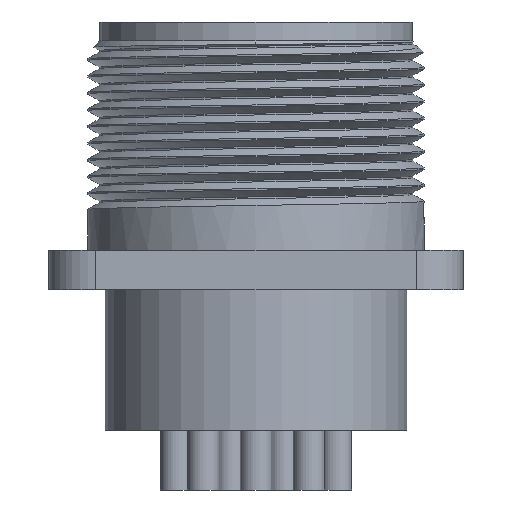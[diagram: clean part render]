
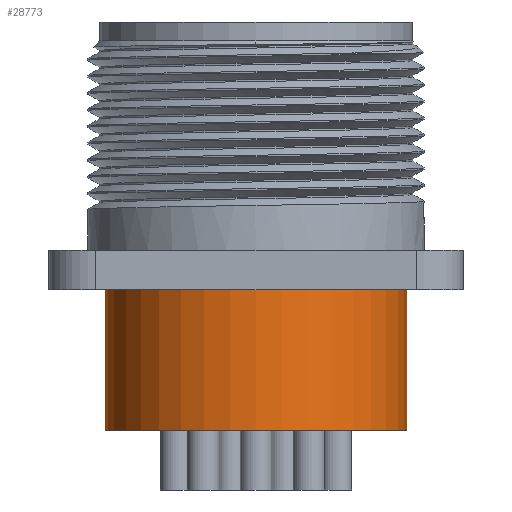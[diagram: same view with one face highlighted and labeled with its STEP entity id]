
A CAD part, front view. The second image highlights one B-rep face of the part: STEP entity #28773.
In plain terms, the highlighted cylindrical face has radius 12.7 mm (diameter 25.4 mm), a partial arc.
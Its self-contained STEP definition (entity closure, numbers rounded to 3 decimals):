
#358 = CARTESIAN_POINT ( 'NONE',  ( 12.7, 0., -34.4 ) ) ;
#980 = EDGE_CURVE ( 'NONE', #22447, #1263, #28251, .T. ) ;
#1263 = VERTEX_POINT ( 'NONE', #2640 ) ;
#2640 = CARTESIAN_POINT ( 'NONE',  ( 12.7, 0., -34.4 ) ) ;
#2839 = VERTEX_POINT ( 'NONE', #33972 ) ;
#2937 = LINE ( 'NONE', #358, #11478 ) ;
#3640 = DIRECTION ( 'NONE',  ( 0., 0., 1. ) ) ;
#5457 = DIRECTION ( 'NONE',  ( 0., 0., -1. ) ) ;
#7120 = FACE_OUTER_BOUND ( 'NONE', #25717, .T. ) ;
#8171 = EDGE_CURVE ( 'NONE', #22447, #33572, #28623, .T. ) ;
#9603 = CIRCLE ( 'NONE', #10369, 12.7 ) ;
#10095 = ORIENTED_EDGE ( 'NONE', *, *, #980, .T. ) ;
#10197 = CARTESIAN_POINT ( 'NONE',  ( -12.7, 0., -34.4 ) ) ;
#10369 = AXIS2_PLACEMENT_3D ( 'NONE', #24595, #5457, #27807 ) ;
#10560 = ORIENTED_EDGE ( 'NONE', *, *, #8171, .F. ) ;
#11114 = EDGE_CURVE ( 'NONE', #1263, #2839, #2937, .T. ) ;
#11478 = VECTOR ( 'NONE', #3640, 1000. ) ;
#14991 = DIRECTION ( 'NONE',  ( 0., 0., 1. ) ) ;
#15134 = CARTESIAN_POINT ( 'NONE',  ( 0., 0., -34.4 ) ) ;
#15288 = CARTESIAN_POINT ( 'NONE',  ( -12.7, 0., -22.59 ) ) ;
#20115 = VECTOR ( 'NONE', #25648, 1000. ) ;
#21502 = ORIENTED_EDGE ( 'NONE', *, *, #11114, .T. ) ;
#22447 = VERTEX_POINT ( 'NONE', #10197 ) ;
#23757 = AXIS2_PLACEMENT_3D ( 'NONE', #15134, #14991, #34303 ) ;
#24595 = CARTESIAN_POINT ( 'NONE',  ( 0., 0., -22.59 ) ) ;
#25648 = DIRECTION ( 'NONE',  ( 0., 0., 1. ) ) ;
#25686 = CARTESIAN_POINT ( 'NONE',  ( -12.7, 0., -34.4 ) ) ;
#25717 = EDGE_LOOP ( 'NONE', ( #10560, #10095, #21502, #38104 ) ) ;
#26467 = DIRECTION ( 'NONE',  ( 1., 0., 0. ) ) ;
#26502 = DIRECTION ( 'NONE',  ( 0., 0., 1. ) ) ;
#26641 = CARTESIAN_POINT ( 'NONE',  ( 0., 0., -34.4 ) ) ;
#27807 = DIRECTION ( 'NONE',  ( 1., 0., 0. ) ) ;
#28251 = CIRCLE ( 'NONE', #39159, 12.7 ) ;
#28623 = LINE ( 'NONE', #25686, #20115 ) ;
#28773 = ADVANCED_FACE ( 'NONE', ( #7120 ), #39104, .T. ) ;
#33572 = VERTEX_POINT ( 'NONE', #15288 ) ;
#33972 = CARTESIAN_POINT ( 'NONE',  ( 12.7, 0., -22.59 ) ) ;
#34303 = DIRECTION ( 'NONE',  ( 1., 0., 0. ) ) ;
#38104 = ORIENTED_EDGE ( 'NONE', *, *, #38289, .T. ) ;
#38289 = EDGE_CURVE ( 'NONE', #2839, #33572, #9603, .T. ) ;
#39104 = CYLINDRICAL_SURFACE ( 'NONE', #23757, 12.7 ) ;
#39159 = AXIS2_PLACEMENT_3D ( 'NONE', #26641, #26502, #26467 ) ;
